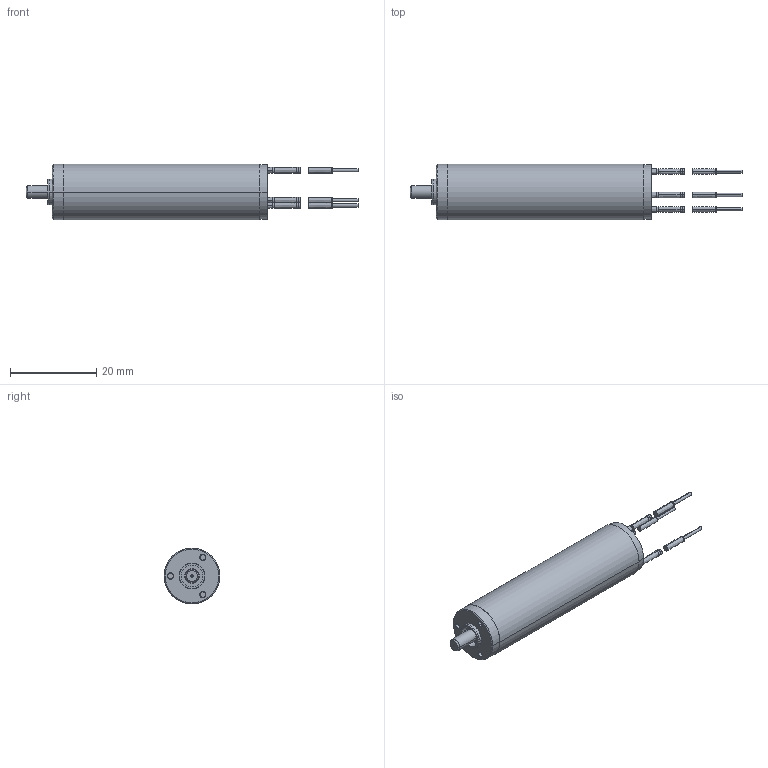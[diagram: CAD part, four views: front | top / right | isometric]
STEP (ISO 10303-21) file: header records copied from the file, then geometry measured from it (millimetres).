
FILE_DESCRIPTION((''),'2;1');
FILE_NAME('448834','2016-11-21T',('mmagpetk'),(''),'CREO PARAMETRIC BY PTC INC, 2016050','CREO PARAMETRIC BY PTC INC, 2016050','');
FILE_SCHEMA(('CONFIG_CONTROL_DESIGN'));
Length unit declared in the file: millimetre
Products named in the file (1): 448834
Bounding box: 77.2 x 13 x 13 mm (x, y, z)
Volume: 6677.8 mm3; surface area: 2762.5 mm2
Topology: 4 solids, 4 shells, 142 faces, 290 edges, 177 vertices
Faces by surface type: cylinder 70, plane 30, bspline 24, cone 16, torus 2
Entity records: 5239 total; most frequent: CARTESIAN_POINT 1069, DIRECTION 678, ORIENTED_EDGE 576, PRESENTATION_STYLE_ASSIGNMENT 315, STYLED_ITEM 300, AXIS2_PLACEMENT_3D 296, CURVE_STYLE 288, EDGE_CURVE 288
